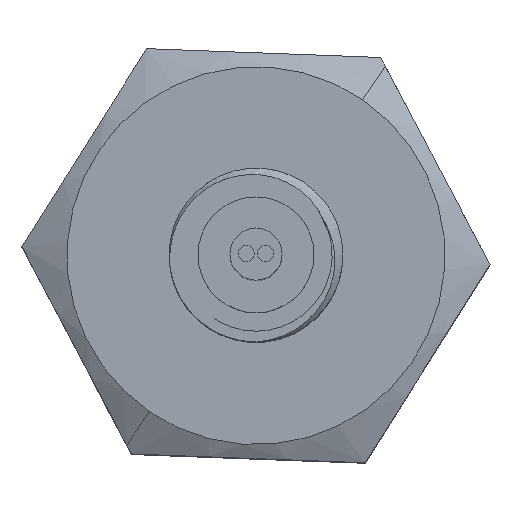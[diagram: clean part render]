
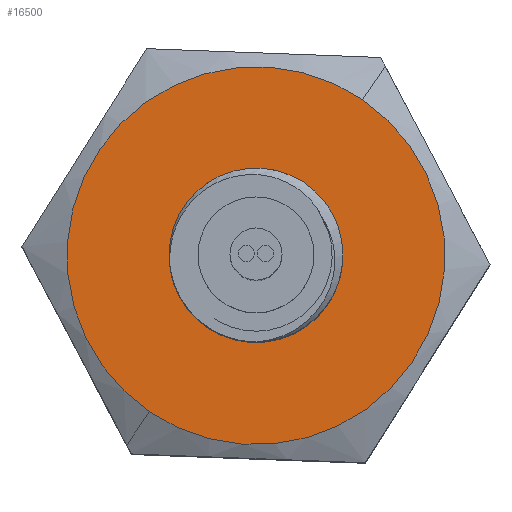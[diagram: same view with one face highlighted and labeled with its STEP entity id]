
A CAD part, top view. The second image highlights one B-rep face of the part: STEP entity #16500.
In plain terms, the highlighted planar face has unit normal (0, 0, 1).
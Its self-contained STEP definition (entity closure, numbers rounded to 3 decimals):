
#139 = CIRCLE ( 'NONE', #460, 3.261 ) ;
#233 = DIRECTION ( 'NONE',  ( 0., 0., -1. ) ) ;
#420 = EDGE_CURVE ( 'NONE', #2277, #11999, #14171, .T. ) ;
#460 = AXIS2_PLACEMENT_3D ( 'NONE', #1711, #15805, #4642 ) ;
#1425 = DIRECTION ( 'NONE',  ( 0.564, 0.826, 0. ) ) ;
#1711 = CARTESIAN_POINT ( 'NONE',  ( 0., 0., 9.981 ) ) ;
#2277 = VERTEX_POINT ( 'NONE', #17600 ) ;
#2306 = AXIS2_PLACEMENT_3D ( 'NONE', #4882, #5006, #10666 ) ;
#2762 = CARTESIAN_POINT ( 'NONE',  ( 0.846, 1.239, 9.981 ) ) ;
#3626 = EDGE_LOOP ( 'NONE', ( #7652, #9596 ) ) ;
#4283 = CARTESIAN_POINT ( 'NONE',  ( 0., 0., 9.981 ) ) ;
#4623 = EDGE_CURVE ( 'NONE', #11999, #2277, #17836, .T. ) ;
#4642 = DIRECTION ( 'NONE',  ( 0.564, 0.826, 0. ) ) ;
#4882 = CARTESIAN_POINT ( 'NONE',  ( 0., 0., 9.981 ) ) ;
#4948 = PLANE ( 'NONE',  #2306 ) ;
#5006 = DIRECTION ( 'NONE',  ( 0., 0., -1. ) ) ;
#5179 = ORIENTED_EDGE ( 'NONE', *, *, #12538, .F. ) ;
#5760 = ORIENTED_EDGE ( 'NONE', *, *, #10964, .F. ) ;
#7652 = ORIENTED_EDGE ( 'NONE', *, *, #420, .T. ) ;
#7693 = AXIS2_PLACEMENT_3D ( 'NONE', #9784, #10181, #13617 ) ;
#7842 = AXIS2_PLACEMENT_3D ( 'NONE', #8631, #233, #11537 ) ;
#8183 = AXIS2_PLACEMENT_3D ( 'NONE', #4283, #15397, #1425 ) ;
#8631 = CARTESIAN_POINT ( 'NONE',  ( 0., 0., 9.981 ) ) ;
#8955 = FACE_BOUND ( 'NONE', #3626, .T. ) ;
#9382 = VERTEX_POINT ( 'NONE', #16928 ) ;
#9596 = ORIENTED_EDGE ( 'NONE', *, *, #4623, .T. ) ;
#9691 = CARTESIAN_POINT ( 'NONE',  ( -1.839, -2.693, 9.981 ) ) ;
#9784 = CARTESIAN_POINT ( 'NONE',  ( 0., 0., 9.981 ) ) ;
#10181 = DIRECTION ( 'NONE',  ( 0., 0., -1. ) ) ;
#10666 = DIRECTION ( 'NONE',  ( 0.564, 0.826, 0. ) ) ;
#10964 = EDGE_CURVE ( 'NONE', #13740, #9382, #139, .T. ) ;
#11159 = FACE_OUTER_BOUND ( 'NONE', #13077, .T. ) ;
#11537 = DIRECTION ( 'NONE',  ( 0.564, 0.826, 0. ) ) ;
#11999 = VERTEX_POINT ( 'NONE', #2762 ) ;
#12538 = EDGE_CURVE ( 'NONE', #9382, #13740, #15997, .T. ) ;
#13077 = EDGE_LOOP ( 'NONE', ( #5179, #5760 ) ) ;
#13617 = DIRECTION ( 'NONE',  ( 0.564, 0.826, 0. ) ) ;
#13740 = VERTEX_POINT ( 'NONE', #9691 ) ;
#14171 = CIRCLE ( 'NONE', #7842, 1.5 ) ;
#15397 = DIRECTION ( 'NONE',  ( 0., 0., -1. ) ) ;
#15805 = DIRECTION ( 'NONE',  ( 0., 0., -1. ) ) ;
#15997 = CIRCLE ( 'NONE', #7693, 3.261 ) ;
#16500 = ADVANCED_FACE ( 'NONE', ( #8955, #11159 ), #4948, .F. ) ;
#16928 = CARTESIAN_POINT ( 'NONE',  ( 1.839, 2.693, 9.981 ) ) ;
#17600 = CARTESIAN_POINT ( 'NONE',  ( -0.846, -1.239, 9.981 ) ) ;
#17836 = CIRCLE ( 'NONE', #8183, 1.5 ) ;
